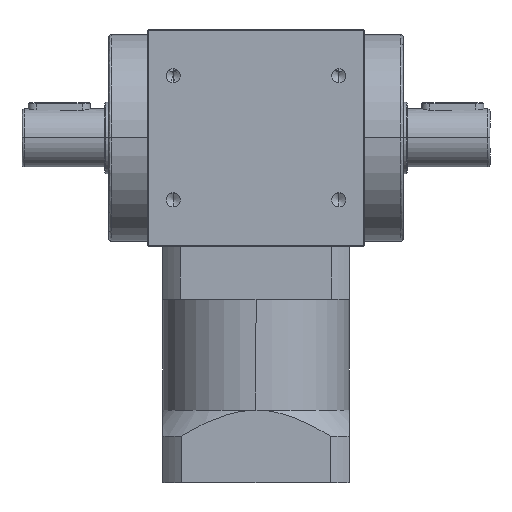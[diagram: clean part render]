
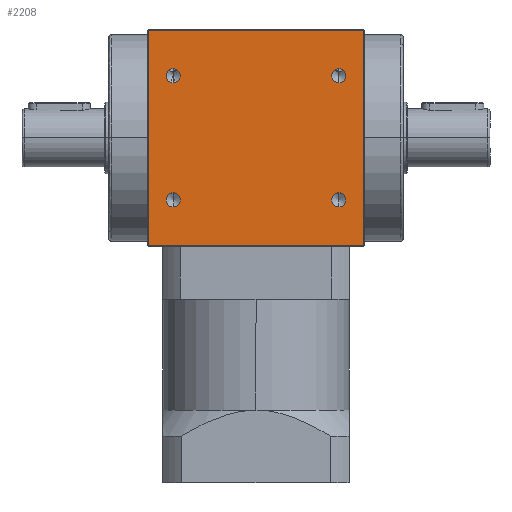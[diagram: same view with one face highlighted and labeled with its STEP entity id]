
A CAD part, top view. The second image highlights one B-rep face of the part: STEP entity #2208.
In plain terms, the highlighted planar face has unit normal (0, 0, 1).
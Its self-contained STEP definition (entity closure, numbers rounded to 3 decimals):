
#158 = CIRCLE ( 'NONE', #7874, 3.4 ) ;
#175 = VERTEX_POINT ( 'NONE', #6486 ) ;
#321 = DIRECTION ( 'NONE',  ( 0., 0., 1. ) ) ;
#359 = ORIENTED_EDGE ( 'NONE', *, *, #7271, .F. ) ;
#369 = CARTESIAN_POINT ( 'NONE',  ( -52., 52., 52.5 ) ) ;
#517 = VERTEX_POINT ( 'NONE', #5108 ) ;
#584 = EDGE_CURVE ( 'NONE', #6944, #2973, #5827, .T. ) ;
#669 = VERTEX_POINT ( 'NONE', #4971 ) ;
#672 = ORIENTED_EDGE ( 'NONE', *, *, #3475, .T. ) ;
#707 = DIRECTION ( 'NONE',  ( -1., 0., 0. ) ) ;
#719 = DIRECTION ( 'NONE',  ( 0., 0., -1. ) ) ;
#722 = CARTESIAN_POINT ( 'NONE',  ( 0., 0., 52.5 ) ) ;
#757 = CARTESIAN_POINT ( 'NONE',  ( 0., 52., 52.5 ) ) ;
#773 = DIRECTION ( 'NONE',  ( 1., 0., 0. ) ) ;
#916 = PLANE ( 'NONE',  #2794 ) ;
#1086 = VERTEX_POINT ( 'NONE', #3944 ) ;
#1189 = DIRECTION ( 'NONE',  ( 0., 0., 1. ) ) ;
#1199 = DIRECTION ( 'NONE',  ( 0., -1., 0. ) ) ;
#1307 = CARTESIAN_POINT ( 'NONE',  ( -40., -33.4, 52.5 ) ) ;
#1338 = FACE_BOUND ( 'NONE', #7491, .T. ) ;
#1677 = CIRCLE ( 'NONE', #6803, 3.4 ) ;
#1748 = VERTEX_POINT ( 'NONE', #2211 ) ;
#1791 = CARTESIAN_POINT ( 'NONE',  ( 40., 30., 52.5 ) ) ;
#1797 = DIRECTION ( 'NONE',  ( 0., 0., 1. ) ) ;
#1810 = DIRECTION ( 'NONE',  ( 0., -1., 0. ) ) ;
#1878 = AXIS2_PLACEMENT_3D ( 'NONE', #5479, #5530, #5543 ) ;
#1942 = FACE_BOUND ( 'NONE', #7153, .T. ) ;
#1954 = VECTOR ( 'NONE', #773, 1000. ) ;
#2114 = CARTESIAN_POINT ( 'NONE',  ( 52., 0., 52.5 ) ) ;
#2208 = ADVANCED_FACE ( 'NONE', ( #1942, #4185, #1338, #2792, #5588 ), #916, .F. ) ;
#2211 = CARTESIAN_POINT ( 'NONE',  ( -40., -26.6, 52.5 ) ) ;
#2365 = AXIS2_PLACEMENT_3D ( 'NONE', #7530, #1189, #1199 ) ;
#2446 = DIRECTION ( 'NONE',  ( 0., -1., 0. ) ) ;
#2548 = CIRCLE ( 'NONE', #4031, 3.4 ) ;
#2642 = DIRECTION ( 'NONE',  ( 1., 0., 0. ) ) ;
#2788 = CARTESIAN_POINT ( 'NONE',  ( -40., 26.6, 52.5 ) ) ;
#2792 = FACE_BOUND ( 'NONE', #7577, .T. ) ;
#2794 = AXIS2_PLACEMENT_3D ( 'NONE', #722, #719, #707 ) ;
#2821 = CARTESIAN_POINT ( 'NONE',  ( 0., -52., 52.5 ) ) ;
#2832 = LINE ( 'NONE', #2821, #3732 ) ;
#2839 = ORIENTED_EDGE ( 'NONE', *, *, #4176, .F. ) ;
#2973 = VERTEX_POINT ( 'NONE', #369 ) ;
#3137 = EDGE_CURVE ( 'NONE', #2973, #8097, #5814, .T. ) ;
#3250 = EDGE_CURVE ( 'NONE', #1748, #6699, #8640, .T. ) ;
#3280 = CIRCLE ( 'NONE', #6482, 3.4 ) ;
#3330 = DIRECTION ( 'NONE',  ( 0., 0., 1. ) ) ;
#3337 = DIRECTION ( 'NONE',  ( 0., -1., 0. ) ) ;
#3426 = ORIENTED_EDGE ( 'NONE', *, *, #8337, .F. ) ;
#3445 = ORIENTED_EDGE ( 'NONE', *, *, #3695, .F. ) ;
#3475 = EDGE_CURVE ( 'NONE', #6944, #517, #2832, .T. ) ;
#3559 = ORIENTED_EDGE ( 'NONE', *, *, #3137, .F. ) ;
#3597 = CIRCLE ( 'NONE', #1878, 3.4 ) ;
#3695 = EDGE_CURVE ( 'NONE', #8664, #3832, #3597, .T. ) ;
#3732 = VECTOR ( 'NONE', #2642, 1000. ) ;
#3832 = VERTEX_POINT ( 'NONE', #7196 ) ;
#3944 = CARTESIAN_POINT ( 'NONE',  ( 40., 26.6, 52.5 ) ) ;
#4004 = ORIENTED_EDGE ( 'NONE', *, *, #3250, .F. ) ;
#4031 = AXIS2_PLACEMENT_3D ( 'NONE', #6262, #6266, #6269 ) ;
#4176 = EDGE_CURVE ( 'NONE', #8097, #517, #4852, .T. ) ;
#4185 = FACE_BOUND ( 'NONE', #7303, .T. ) ;
#4219 = CARTESIAN_POINT ( 'NONE',  ( -40., 30., 52.5 ) ) ;
#4227 = DIRECTION ( 'NONE',  ( 0., 0., 1. ) ) ;
#4230 = DIRECTION ( 'NONE',  ( 0., -1., 0. ) ) ;
#4681 = ORIENTED_EDGE ( 'NONE', *, *, #584, .F. ) ;
#4734 = ORIENTED_EDGE ( 'NONE', *, *, #5888, .F. ) ;
#4796 = ORIENTED_EDGE ( 'NONE', *, *, #6576, .F. ) ;
#4820 = CARTESIAN_POINT ( 'NONE',  ( 52., 52., 52.5 ) ) ;
#4834 = VECTOR ( 'NONE', #2446, 1000. ) ;
#4852 = LINE ( 'NONE', #2114, #4834 ) ;
#4971 = CARTESIAN_POINT ( 'NONE',  ( -40., 33.4, 52.5 ) ) ;
#5051 = DIRECTION ( 'NONE',  ( 0., 1., 0. ) ) ;
#5094 = CARTESIAN_POINT ( 'NONE',  ( -52., 0., 52.5 ) ) ;
#5108 = CARTESIAN_POINT ( 'NONE',  ( 52., -52., 52.5 ) ) ;
#5479 = CARTESIAN_POINT ( 'NONE',  ( 40., -30., 52.5 ) ) ;
#5530 = DIRECTION ( 'NONE',  ( 0., 0., 1. ) ) ;
#5535 = CIRCLE ( 'NONE', #5655, 3.4 ) ;
#5543 = DIRECTION ( 'NONE',  ( 0., -1., 0. ) ) ;
#5588 = FACE_OUTER_BOUND ( 'NONE', #7893, .T. ) ;
#5655 = AXIS2_PLACEMENT_3D ( 'NONE', #1791, #1797, #1810 ) ;
#5716 = CARTESIAN_POINT ( 'NONE',  ( -40., -30., 52.5 ) ) ;
#5751 = EDGE_CURVE ( 'NONE', #6699, #1748, #158, .T. ) ;
#5814 = LINE ( 'NONE', #757, #1954 ) ;
#5827 = LINE ( 'NONE', #5094, #6283 ) ;
#5888 = EDGE_CURVE ( 'NONE', #7536, #669, #7323, .T. ) ;
#6262 = CARTESIAN_POINT ( 'NONE',  ( 40., -30., 52.5 ) ) ;
#6266 = DIRECTION ( 'NONE',  ( 0., 0., 1. ) ) ;
#6269 = DIRECTION ( 'NONE',  ( 0., -1., 0. ) ) ;
#6276 = ORIENTED_EDGE ( 'NONE', *, *, #6341, .F. ) ;
#6283 = VECTOR ( 'NONE', #5051, 1000. ) ;
#6341 = EDGE_CURVE ( 'NONE', #175, #1086, #1677, .T. ) ;
#6482 = AXIS2_PLACEMENT_3D ( 'NONE', #8518, #321, #8547 ) ;
#6486 = CARTESIAN_POINT ( 'NONE',  ( 40., 33.4, 52.5 ) ) ;
#6576 = EDGE_CURVE ( 'NONE', #669, #7536, #3280, .T. ) ;
#6699 = VERTEX_POINT ( 'NONE', #1307 ) ;
#6803 = AXIS2_PLACEMENT_3D ( 'NONE', #7316, #7327, #7335 ) ;
#6944 = VERTEX_POINT ( 'NONE', #8120 ) ;
#7153 = EDGE_LOOP ( 'NONE', ( #3426, #3445 ) ) ;
#7196 = CARTESIAN_POINT ( 'NONE',  ( 40., -33.4, 52.5 ) ) ;
#7271 = EDGE_CURVE ( 'NONE', #1086, #175, #5535, .T. ) ;
#7303 = EDGE_LOOP ( 'NONE', ( #7818, #4004 ) ) ;
#7316 = CARTESIAN_POINT ( 'NONE',  ( 40., 30., 52.5 ) ) ;
#7323 = CIRCLE ( 'NONE', #7593, 3.4 ) ;
#7327 = DIRECTION ( 'NONE',  ( 0., 0., 1. ) ) ;
#7335 = DIRECTION ( 'NONE',  ( 0., -1., 0. ) ) ;
#7491 = EDGE_LOOP ( 'NONE', ( #359, #6276 ) ) ;
#7530 = CARTESIAN_POINT ( 'NONE',  ( -40., -30., 52.5 ) ) ;
#7536 = VERTEX_POINT ( 'NONE', #2788 ) ;
#7577 = EDGE_LOOP ( 'NONE', ( #4734, #4796 ) ) ;
#7593 = AXIS2_PLACEMENT_3D ( 'NONE', #4219, #4227, #4230 ) ;
#7818 = ORIENTED_EDGE ( 'NONE', *, *, #5751, .F. ) ;
#7874 = AXIS2_PLACEMENT_3D ( 'NONE', #5716, #3330, #3337 ) ;
#7893 = EDGE_LOOP ( 'NONE', ( #672, #2839, #3559, #4681 ) ) ;
#8097 = VERTEX_POINT ( 'NONE', #4820 ) ;
#8110 = CARTESIAN_POINT ( 'NONE',  ( 40., -26.6, 52.5 ) ) ;
#8120 = CARTESIAN_POINT ( 'NONE',  ( -52., -52., 52.5 ) ) ;
#8337 = EDGE_CURVE ( 'NONE', #3832, #8664, #2548, .T. ) ;
#8518 = CARTESIAN_POINT ( 'NONE',  ( -40., 30., 52.5 ) ) ;
#8547 = DIRECTION ( 'NONE',  ( 0., -1., 0. ) ) ;
#8640 = CIRCLE ( 'NONE', #2365, 3.4 ) ;
#8664 = VERTEX_POINT ( 'NONE', #8110 ) ;
